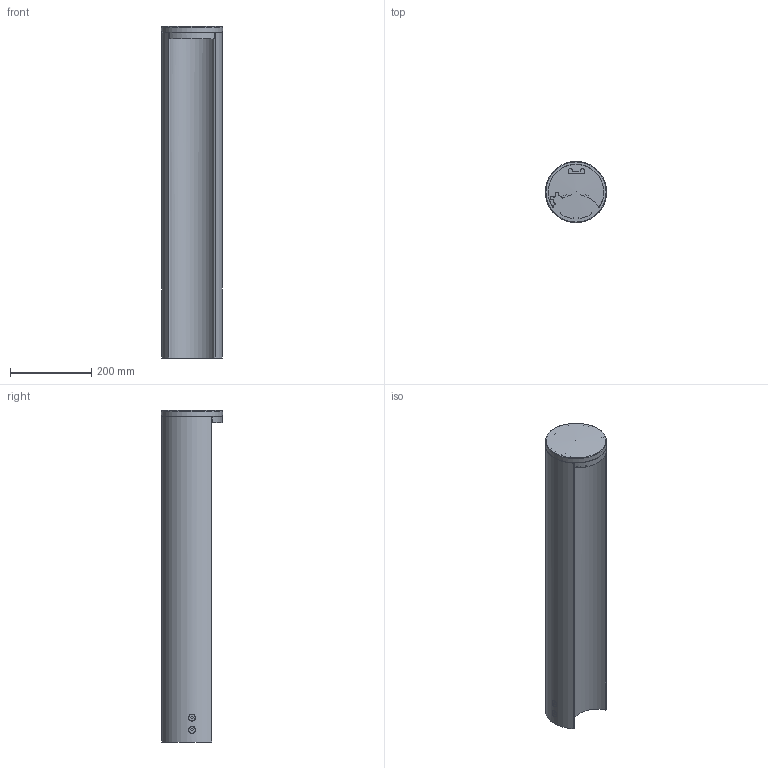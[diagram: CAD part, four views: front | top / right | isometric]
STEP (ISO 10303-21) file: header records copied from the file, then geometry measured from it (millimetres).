
FILE_DESCRIPTION(/* description */ ('Unknown'),/* implementation_level */ '2;1');
FILE_NAME(/* name */ 'RYO MONO MEDIUM',/* time_stamp */ '2023-01-17T10:29:53+01:00',/* author */ ('Unknown'),/* organization */ ('Unknown'),/* preprocessor_version */ 'ST-DEVELOPER v18.1',/* originating_system */ 'Solid Edge',/* authorisation */ 'Unknown');
FILE_SCHEMA (('INTEGRATED_CNC_SCHEMA','MODEL_BASED_INTEGRATED_MANUFACTURING_SCHEMA','AUTOMOTIVE_DESIGN {1 0 10303 214 3 1 1}'));
Length unit declared in the file: millimetre
Products named in the file (1): E64734_Semplifica
Bounding box: 150.46 x 150.46 x 816.5 mm (x, y, z)
Volume: 1392079.5 mm3; surface area: 872694.3 mm2
Topology: 2 solids, 2 shells, 920 faces, 2140 edges, 1184 vertices
Faces by surface type: cylinder 322, torus 180, plane 177, sphere 87, bspline 85, cone 69
Full cylindrical faces by diameter (mm): 2.459 x4, 2.5 x4, 3 x4, 3.242 x2, 3.5 x4, 4.917 x2, 7 x3, 8 x4, 11.1 x4, 16 x4, 30 x1
Entity records: 31901 total; most frequent: CARTESIAN_POINT 5746, DIRECTION 4575, ORIENTED_EDGE 3928, EDGE_CURVE 1964, AXIS2_PLACEMENT_3D 1949, VERTEX_POINT 1149, CIRCLE 1072, EDGE_LOOP 1051
